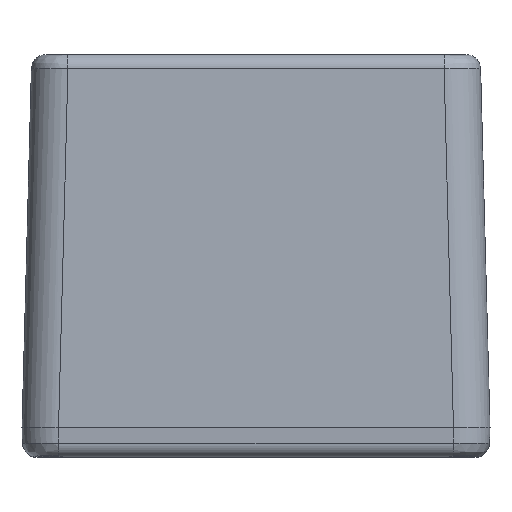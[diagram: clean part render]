
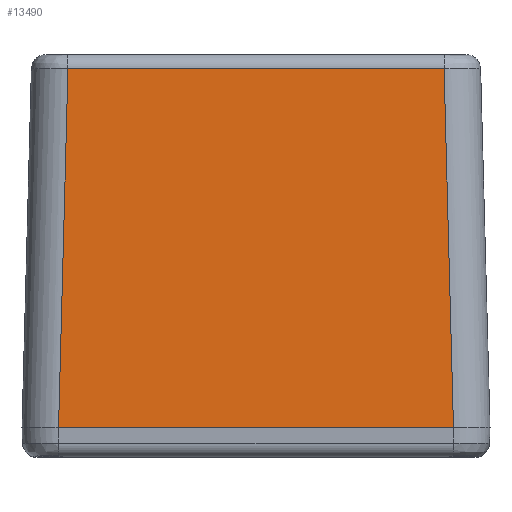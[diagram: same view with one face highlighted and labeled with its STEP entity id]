
A CAD part, left-side view. The second image highlights one B-rep face of the part: STEP entity #13490.
In plain terms, the highlighted planar face has unit normal (-1, 0, 0.026).
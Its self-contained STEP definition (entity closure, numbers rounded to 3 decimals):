
#1410=FACE_OUTER_BOUND('',#2229,.T.);
#2229=EDGE_LOOP('',(#9402,#9403,#9404,#9405));
#3199=LINE('',#21838,#4284);
#3200=LINE('',#21840,#4285);
#3201=LINE('',#21842,#4286);
#3202=LINE('',#21843,#4287);
#4284=VECTOR('',#15236,49.086);
#4285=VECTOR('',#15237,51.434);
#4286=VECTOR('',#15238,49.086);
#4287=VECTOR('',#15239,54.003);
#5809=VERTEX_POINT('',#21836);
#5810=VERTEX_POINT('',#21837);
#5811=VERTEX_POINT('',#21839);
#5812=VERTEX_POINT('',#21841);
#7222=EDGE_CURVE('',#5809,#5810,#3199,.T.);
#7223=EDGE_CURVE('',#5810,#5811,#3200,.F.);
#7224=EDGE_CURVE('',#5811,#5812,#3201,.F.);
#7225=EDGE_CURVE('',#5812,#5809,#3202,.T.);
#9402=ORIENTED_EDGE('',*,*,#7222,.T.);
#9403=ORIENTED_EDGE('',*,*,#7223,.T.);
#9404=ORIENTED_EDGE('',*,*,#7224,.T.);
#9405=ORIENTED_EDGE('',*,*,#7225,.T.);
#13165=PLANE('',#14279);
#13490=ADVANCED_FACE('',(#1410),#13165,.T.);
#14279=AXIS2_PLACEMENT_3D('',#21835,#15234,#15235);
#15234=DIRECTION('center_axis',(-1.,0.,
0.026));
#15235=DIRECTION('ref_axis',(0.026,0.,1.));
#15236=DIRECTION('',(0.026,0.026,0.999));
#15237=DIRECTION('',(0.,-1.,0.));
#15238=DIRECTION('',(0.026,-0.026,0.999));
#15239=DIRECTION('',(0.,-1.,0.));
#21835=CARTESIAN_POINT('Origin',(-57.25,32.,0.));
#21836=CARTESIAN_POINT('',(-57.25,-27.002,0.));
#21837=CARTESIAN_POINT('',(-55.966,-25.717,49.052));
#21838=CARTESIAN_POINT('',(-57.25,-27.002,0.));
#21839=CARTESIAN_POINT('',(-55.966,25.717,49.052));
#21840=CARTESIAN_POINT('',(-55.966,25.717,49.052));
#21841=CARTESIAN_POINT('',(-57.25,27.002,0.));
#21842=CARTESIAN_POINT('',(-57.25,27.002,0.));
#21843=CARTESIAN_POINT('',(-57.25,27.002,0.));
